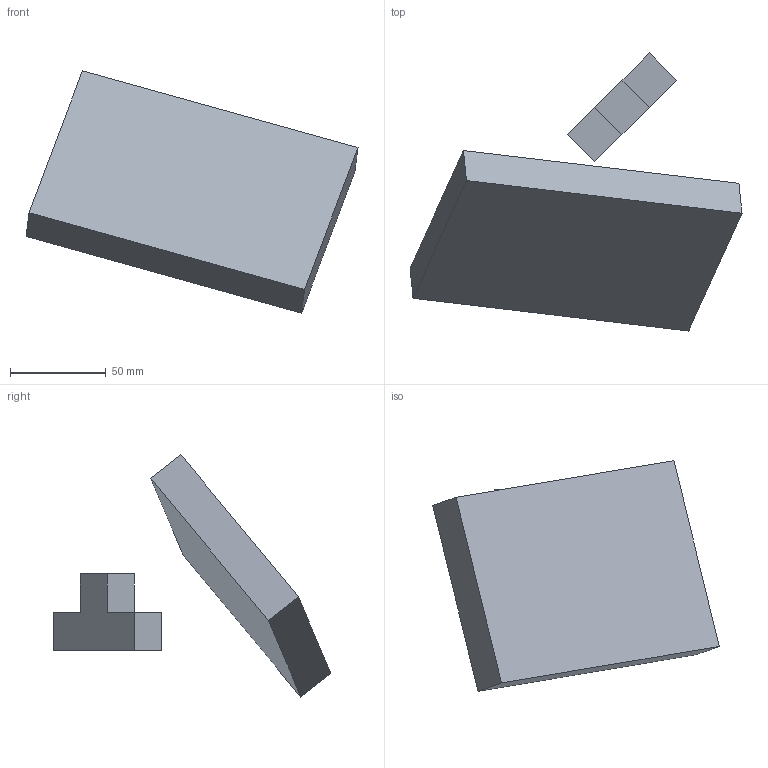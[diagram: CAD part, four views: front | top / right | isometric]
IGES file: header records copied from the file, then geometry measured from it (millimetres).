
Start section: SolidWorks IGES file using analytic representation for surfaces
Global section: file name: C:\Documents and Settings\Pc\Escritorio\Modelos 3D\Capítulo 4 (Caída)\PRACTICAS\P-10\Ensamblaje1.IGS; native system: SolidWorks 2010; preprocessor: SolidWorks 2010; author: Pc; date: 100623.113927; units: millimetre
Bounding box: 173.01 x 144.85 x 126.31 mm (x, y, z)
Surface area: 47200 mm2 (no closed solid volume)
Topology: 0 solids, 0 shells, 16 faces, 72 edges, 72 vertices
Faces by surface type: bspline 16
